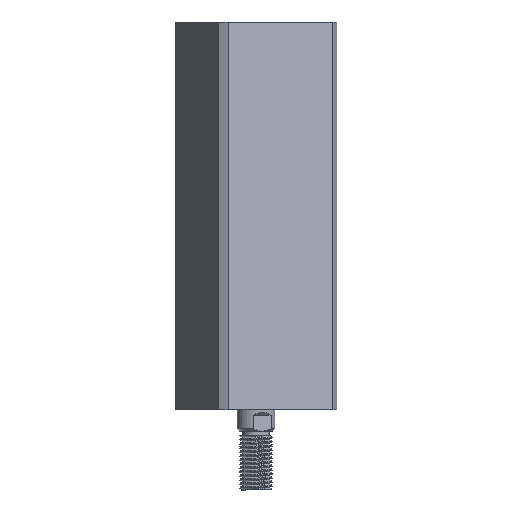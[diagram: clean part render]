
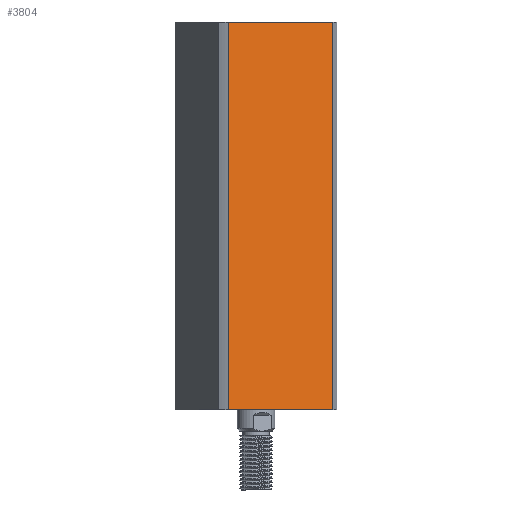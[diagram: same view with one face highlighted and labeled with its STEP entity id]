
A CAD part, left-side view. The second image highlights one B-rep face of the part: STEP entity #3804.
In plain terms, the highlighted planar face has unit normal (-0.924, -0.383, 0) as drawn and (1, 0, 0) by its records, which use the part's own axes.
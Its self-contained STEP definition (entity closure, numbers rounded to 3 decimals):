
#74 = CARTESIAN_POINT ( 'NONE',  ( 24., -21.166, -155. ) ) ;
#86 = ORIENTED_EDGE ( 'NONE', *, *, #1889, .F. ) ;
#211 = LINE ( 'NONE', #3400, #2421 ) ;
#695 = VERTEX_POINT ( 'NONE', #4589 ) ;
#1062 = EDGE_CURVE ( 'NONE', #6097, #9082, #7230, .T. ) ;
#1542 = AXIS2_PLACEMENT_3D ( 'NONE', #6035, #10230, #5230 ) ;
#1889 = EDGE_CURVE ( 'NONE', #2219, #695, #211, .T. ) ;
#2219 = VERTEX_POINT ( 'NONE', #5748 ) ;
#2268 = LINE ( 'NONE', #10589, #10639 ) ;
#2338 = ORIENTED_EDGE ( 'NONE', *, *, #9017, .F. ) ;
#2421 = VECTOR ( 'NONE', #10068, 1000. ) ;
#3400 = CARTESIAN_POINT ( 'NONE',  ( 24., 24., 145. ) ) ;
#3804 = ADVANCED_FACE ( 'NONE', ( #5536 ), #7700, .F. ) ;
#4589 = CARTESIAN_POINT ( 'NONE',  ( 24., 21.166, 145. ) ) ;
#4767 = VECTOR ( 'NONE', #7960, 1000. ) ;
#5230 = DIRECTION ( 'NONE',  ( 0., -1., 0. ) ) ;
#5536 = FACE_OUTER_BOUND ( 'NONE', #9770, .T. ) ;
#5748 = CARTESIAN_POINT ( 'NONE',  ( 24., -21.166, 145. ) ) ;
#5901 = DIRECTION ( 'NONE',  ( 0., 0., 1. ) ) ;
#5952 = LINE ( 'NONE', #74, #10409 ) ;
#6035 = CARTESIAN_POINT ( 'NONE',  ( 24., 24., 145. ) ) ;
#6097 = VERTEX_POINT ( 'NONE', #9379 ) ;
#7230 = LINE ( 'NONE', #9618, #4767 ) ;
#7307 = CARTESIAN_POINT ( 'NONE',  ( 24., 21.166, 0. ) ) ;
#7700 = PLANE ( 'NONE',  #1542 ) ;
#7960 = DIRECTION ( 'NONE',  ( 0., 1., 0. ) ) ;
#8193 = EDGE_CURVE ( 'NONE', #6097, #2219, #5952, .T. ) ;
#8541 = ORIENTED_EDGE ( 'NONE', *, *, #8193, .F. ) ;
#8888 = DIRECTION ( 'NONE',  ( 0., 0., -1. ) ) ;
#9017 = EDGE_CURVE ( 'NONE', #695, #9082, #2268, .T. ) ;
#9082 = VERTEX_POINT ( 'NONE', #7307 ) ;
#9379 = CARTESIAN_POINT ( 'NONE',  ( 24., -21.166, 0. ) ) ;
#9618 = CARTESIAN_POINT ( 'NONE',  ( 24., 24., 0. ) ) ;
#9770 = EDGE_LOOP ( 'NONE', ( #8541, #9937, #2338, #86 ) ) ;
#9937 = ORIENTED_EDGE ( 'NONE', *, *, #1062, .T. ) ;
#10068 = DIRECTION ( 'NONE',  ( 0., 1., 0. ) ) ;
#10230 = DIRECTION ( 'NONE',  ( -1., 0., 0. ) ) ;
#10409 = VECTOR ( 'NONE', #5901, 1000. ) ;
#10589 = CARTESIAN_POINT ( 'NONE',  ( 24., 21.166, -155. ) ) ;
#10639 = VECTOR ( 'NONE', #8888, 1000. ) ;
